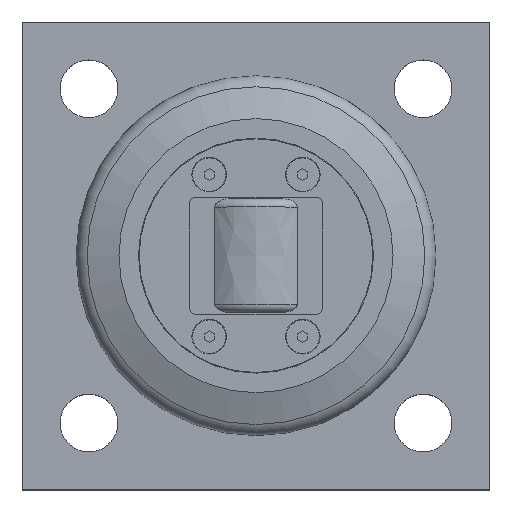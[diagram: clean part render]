
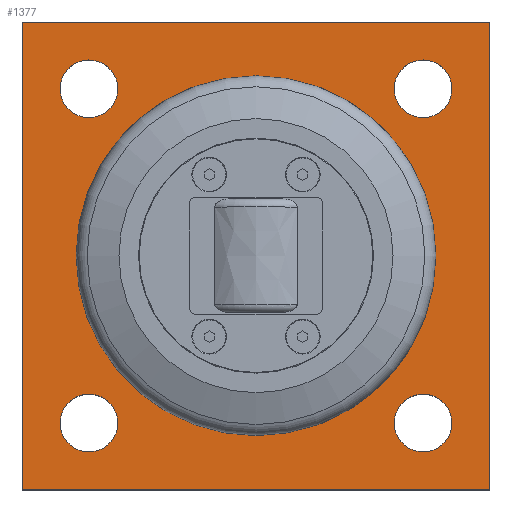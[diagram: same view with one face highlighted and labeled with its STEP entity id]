
A CAD part, top view. The second image highlights one B-rep face of the part: STEP entity #1377.
In plain terms, the highlighted planar face has unit normal (0, 0, 1).
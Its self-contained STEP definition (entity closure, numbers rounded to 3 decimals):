
#54=FACE_BOUND('',#260,.T.);
#55=FACE_BOUND('',#261,.T.);
#56=FACE_BOUND('',#262,.T.);
#57=FACE_BOUND('',#263,.T.);
#58=FACE_BOUND('',#264,.T.);
#104=CIRCLE('',#1506,35.);
#105=CIRCLE('',#1508,8.647);
#106=CIRCLE('',#1509,8.647);
#107=CIRCLE('',#1510,8.647);
#108=CIRCLE('',#1511,8.647);
#109=CIRCLE('',#1512,8.647);
#110=CIRCLE('',#1513,8.647);
#111=CIRCLE('',#1514,8.647);
#112=CIRCLE('',#1515,8.647);
#177=FACE_OUTER_BOUND('',#259,.T.);
#259=EDGE_LOOP('',(#1059,#1060,#1061,#1062));
#260=EDGE_LOOP('',(#1063,#1064));
#261=EDGE_LOOP('',(#1065,#1066));
#262=EDGE_LOOP('',(#1067,#1068));
#263=EDGE_LOOP('',(#1069,#1070));
#264=EDGE_LOOP('',(#1071));
#381=LINE('',#2232,#501);
#382=LINE('',#2234,#502);
#383=LINE('',#2236,#503);
#384=LINE('',#2237,#504);
#501=VECTOR('',#1786,10.);
#502=VECTOR('',#1787,10.);
#503=VECTOR('',#1788,10.);
#504=VECTOR('',#1789,10.);
#626=VERTEX_POINT('',#2226);
#627=VERTEX_POINT('',#2230);
#628=VERTEX_POINT('',#2231);
#629=VERTEX_POINT('',#2233);
#630=VERTEX_POINT('',#2235);
#631=VERTEX_POINT('',#2238);
#632=VERTEX_POINT('',#2239);
#633=VERTEX_POINT('',#2242);
#634=VERTEX_POINT('',#2243);
#635=VERTEX_POINT('',#2246);
#636=VERTEX_POINT('',#2247);
#637=VERTEX_POINT('',#2250);
#638=VERTEX_POINT('',#2251);
#792=EDGE_CURVE('',#626,#626,#104,.T.);
#793=EDGE_CURVE('',#627,#628,#381,.T.);
#794=EDGE_CURVE('',#629,#627,#382,.T.);
#795=EDGE_CURVE('',#630,#629,#383,.T.);
#796=EDGE_CURVE('',#628,#630,#384,.T.);
#797=EDGE_CURVE('',#631,#632,#105,.T.);
#798=EDGE_CURVE('',#632,#631,#106,.T.);
#799=EDGE_CURVE('',#633,#634,#107,.T.);
#800=EDGE_CURVE('',#634,#633,#108,.T.);
#801=EDGE_CURVE('',#635,#636,#109,.T.);
#802=EDGE_CURVE('',#636,#635,#110,.T.);
#803=EDGE_CURVE('',#637,#638,#111,.T.);
#804=EDGE_CURVE('',#638,#637,#112,.T.);
#1059=ORIENTED_EDGE('',*,*,#793,.F.);
#1060=ORIENTED_EDGE('',*,*,#794,.F.);
#1061=ORIENTED_EDGE('',*,*,#795,.F.);
#1062=ORIENTED_EDGE('',*,*,#796,.F.);
#1063=ORIENTED_EDGE('',*,*,#797,.T.);
#1064=ORIENTED_EDGE('',*,*,#798,.T.);
#1065=ORIENTED_EDGE('',*,*,#799,.T.);
#1066=ORIENTED_EDGE('',*,*,#800,.T.);
#1067=ORIENTED_EDGE('',*,*,#801,.T.);
#1068=ORIENTED_EDGE('',*,*,#802,.T.);
#1069=ORIENTED_EDGE('',*,*,#803,.T.);
#1070=ORIENTED_EDGE('',*,*,#804,.T.);
#1071=ORIENTED_EDGE('',*,*,#792,.T.);
#1318=PLANE('',#1507);
#1377=ADVANCED_FACE('',(#177,#54,#55,#56,#57,#58),#1318,.T.);
#1506=AXIS2_PLACEMENT_3D('',#2228,#1782,#1783);
#1507=AXIS2_PLACEMENT_3D('',#2229,#1784,#1785);
#1508=AXIS2_PLACEMENT_3D('',#2240,#1790,#1791);
#1509=AXIS2_PLACEMENT_3D('',#2241,#1792,#1793);
#1510=AXIS2_PLACEMENT_3D('',#2244,#1794,#1795);
#1511=AXIS2_PLACEMENT_3D('',#2245,#1796,#1797);
#1512=AXIS2_PLACEMENT_3D('',#2248,#1798,#1799);
#1513=AXIS2_PLACEMENT_3D('',#2249,#1800,#1801);
#1514=AXIS2_PLACEMENT_3D('',#2252,#1802,#1803);
#1515=AXIS2_PLACEMENT_3D('',#2253,#1804,#1805);
#1782=DIRECTION('center_axis',(0.,0.,-1.));
#1783=DIRECTION('ref_axis',(0.,-1.,0.));
#1784=DIRECTION('center_axis',(0.,0.,1.));
#1785=DIRECTION('ref_axis',(1.,0.,0.));
#1786=DIRECTION('',(0.,1.,0.));
#1787=DIRECTION('',(-1.,0.,0.));
#1788=DIRECTION('',(0.,-1.,0.));
#1789=DIRECTION('',(1.,0.,0.));
#1790=DIRECTION('center_axis',(0.,0.,-1.));
#1791=DIRECTION('ref_axis',(1.,0.,0.));
#1792=DIRECTION('center_axis',(0.,0.,-1.));
#1793=DIRECTION('ref_axis',(1.,0.,0.));
#1794=DIRECTION('center_axis',(0.,0.,-1.));
#1795=DIRECTION('ref_axis',(1.,0.,0.));
#1796=DIRECTION('center_axis',(0.,0.,-1.));
#1797=DIRECTION('ref_axis',(1.,0.,0.));
#1798=DIRECTION('center_axis',(0.,0.,-1.));
#1799=DIRECTION('ref_axis',(1.,0.,0.));
#1800=DIRECTION('center_axis',(0.,0.,-1.));
#1801=DIRECTION('ref_axis',(1.,0.,0.));
#1802=DIRECTION('center_axis',(0.,0.,-1.));
#1803=DIRECTION('ref_axis',(1.,0.,0.));
#1804=DIRECTION('center_axis',(0.,0.,-1.));
#1805=DIRECTION('ref_axis',(1.,0.,0.));
#2226=CARTESIAN_POINT('',(70.,105.,20.));
#2228=CARTESIAN_POINT('Origin',(70.,70.,20.));
#2229=CARTESIAN_POINT('Origin',(70.,70.,20.));
#2230=CARTESIAN_POINT('',(0.,0.,20.));
#2231=CARTESIAN_POINT('',(0.,140.,20.));
#2232=CARTESIAN_POINT('',(0.,140.,20.));
#2233=CARTESIAN_POINT('',(140.,0.,20.));
#2234=CARTESIAN_POINT('',(0.,0.,20.));
#2235=CARTESIAN_POINT('',(140.,140.,20.));
#2236=CARTESIAN_POINT('',(140.,0.,20.));
#2237=CARTESIAN_POINT('',(140.,140.,20.));
#2238=CARTESIAN_POINT('',(28.647,20.,20.));
#2239=CARTESIAN_POINT('',(11.353,20.,20.));
#2240=CARTESIAN_POINT('Origin',(20.,20.,20.));
#2241=CARTESIAN_POINT('Origin',(20.,20.,20.));
#2242=CARTESIAN_POINT('',(128.647,20.,20.));
#2243=CARTESIAN_POINT('',(111.353,20.,20.));
#2244=CARTESIAN_POINT('Origin',(120.,20.,20.));
#2245=CARTESIAN_POINT('Origin',(120.,20.,20.));
#2246=CARTESIAN_POINT('',(128.647,120.,20.));
#2247=CARTESIAN_POINT('',(111.353,120.,20.));
#2248=CARTESIAN_POINT('Origin',(120.,120.,20.));
#2249=CARTESIAN_POINT('Origin',(120.,120.,20.));
#2250=CARTESIAN_POINT('',(28.647,120.,20.));
#2251=CARTESIAN_POINT('',(11.353,120.,20.));
#2252=CARTESIAN_POINT('Origin',(20.,120.,20.));
#2253=CARTESIAN_POINT('Origin',(20.,120.,20.));
